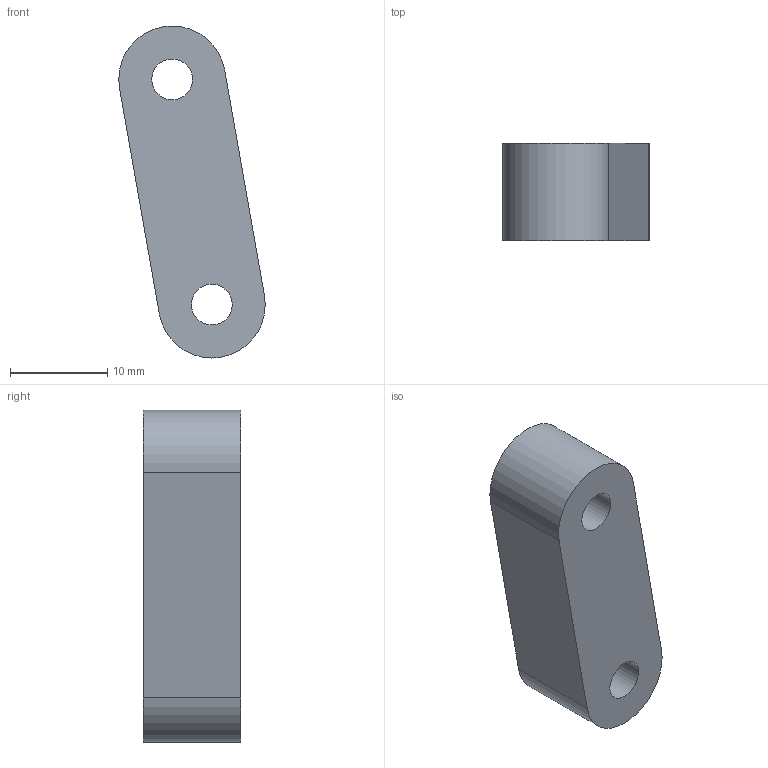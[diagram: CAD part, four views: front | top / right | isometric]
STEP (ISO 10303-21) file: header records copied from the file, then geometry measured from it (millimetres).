
FILE_DESCRIPTION(/* description */ (''),/* implementation_level */ '2;1');
FILE_NAME(/* name */ 'lnik2 II.step',/* time_stamp */ '2026-03-04T15:16:51+01:00',/* author */ (''),/* organization */ (''),/* preprocessor_version */ 'ST-DEVELOPER v20.1',/* originating_system */ 'Autodesk Translation Framework v14.24.0.0',/* authorisation */ '');
FILE_SCHEMA (('AUTOMOTIVE_DESIGN { 1 0 10303 214 3 1 1 }'));
Length unit declared in the file: millimetre
Products named in the file (1): lnik2 II
Bounding box: 15.09 x 10 x 34.21 mm (x, y, z)
Volume: 3265.8 mm3; surface area: 1734 mm2
Topology: 1 solids, 1 shells, 8 faces, 18 edges, 12 vertices
Faces by surface type: plane 4, cylinder 4
Full cylindrical faces by diameter (mm): 4.2 x2
Entity records: 271 total; most frequent: DIRECTION 44, CARTESIAN_POINT 39, ORIENTED_EDGE 36, EDGE_CURVE 18, AXIS2_PLACEMENT_3D 17, EDGE_LOOP 12, VERTEX_POINT 12, LINE 10
